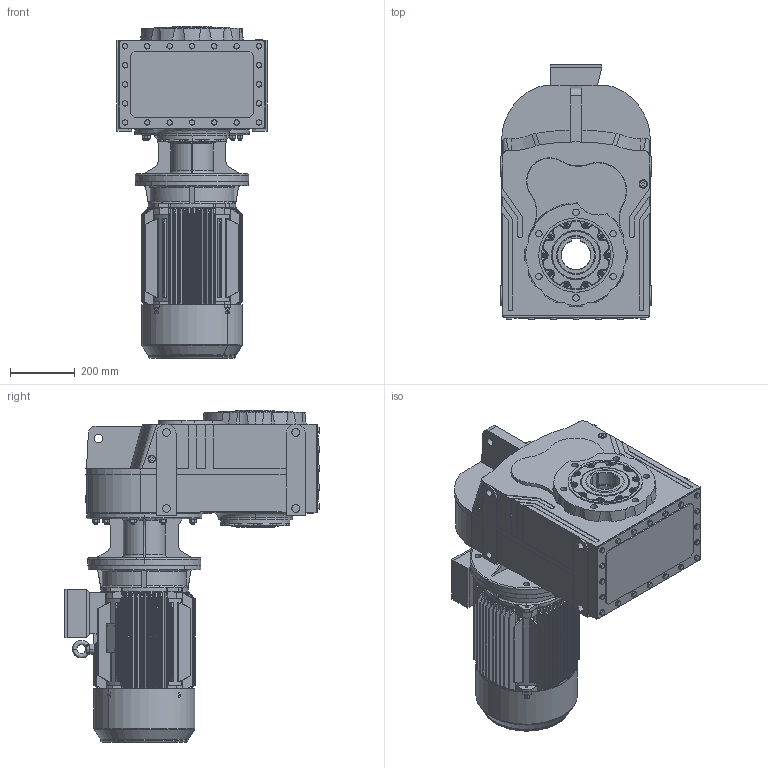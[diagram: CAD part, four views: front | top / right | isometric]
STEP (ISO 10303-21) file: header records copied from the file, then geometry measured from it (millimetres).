
FILE_DESCRIPTION (( 'STEP AP203' ), '1' );
FILE_NAME ('DV772-DV773-M3-160L.STEP', '2019-07-23T13:36:29', ( '' ), ( '' ), 'SwSTEP 2.0', 'SolidWorks 2012', '' );
FILE_SCHEMA (( 'CONFIG_CONTROL_DESIGN' ));
Products named in the file (15): M3-160L-FF-B5; DV772-DV773-M3-160L; +¦i-MN2-160_-++ñ; Y2-160-2ª¥--®+_-++ñ; Y2-160_shaft; Eyebolts GB_GB_FASTENER_SCREWS_FRS M12N; Y2-160L+À+¿(B5)_-++ñ; Y2-160-4Ý¾6Ý¾8-ª+---®+_-++ñ; +ª+§ªiY2-160ñ»ª­_-++ñ; Y2-160ñ»ª­+¿_-++ñ; ML22A_Varsayìlan; DN_77_3_0_A-B16_B5_ML22A_0_0_0_0_0_0_0_0_0_0_0_0_M1; Y2-160-180ñ»ª­®+_-++ñ; D773_Varsayìlan; 63160B5_Varsayìlan
Assembly tree (14 placements, depth 4):
  DV772-DV773-M3-160L
    DN_77_3_0_A-B16_B5_ML22A_0_0_0_0_0_0_0_0_0_0_0_0_M1
      D773_Varsayìlan
      63160B5_Varsayìlan
      ML22A_Varsayìlan
    M3-160L-FF-B5
      +ª+§ªiY2-160ñ»ª­_-++ñ
        Y2-160-180ñ»ª­®+_-++ñ
        Y2-160ñ»ª­+¿_-++ñ
      Y2-160-4Ý¾6Ý¾8-ª+---®+_-++ñ
      Y2-160L+À+¿(B5)_-++ñ
      Eyebolts GB_GB_FASTENER_SCREWS_FRS M12N
      Y2-160-2ª¥--®+_-++ñ
      +¦i-MN2-160_-++ñ
      Y2-160_shaft
Bounding box: 464 x 788.4 x 1026.5 mm (x, y, z)
Volume: 93006542.8 mm3; surface area: 4819327.1 mm2
Topology: 13 solids, 13 shells, 3284 faces, 8401 edges, 5199 vertices
Faces by surface type: plane 1277, cylinder 1033, cone 473, bspline 394, torus 67, sphere 40
Entity records: 144390 total; most frequent: CARTESIAN_POINT 67946, ORIENTED_EDGE 16470, DIRECTION 14408, EDGE_CURVE 8235, AXIS2_PLACEMENT_3D 5413, VERTEX_POINT 5164, EDGE_LOOP 3599, LINE 3582
